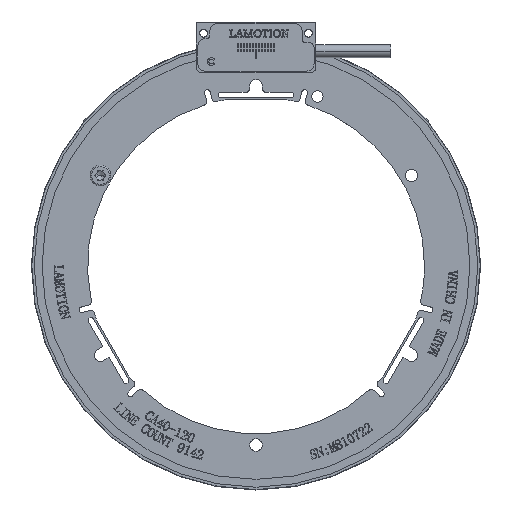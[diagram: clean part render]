
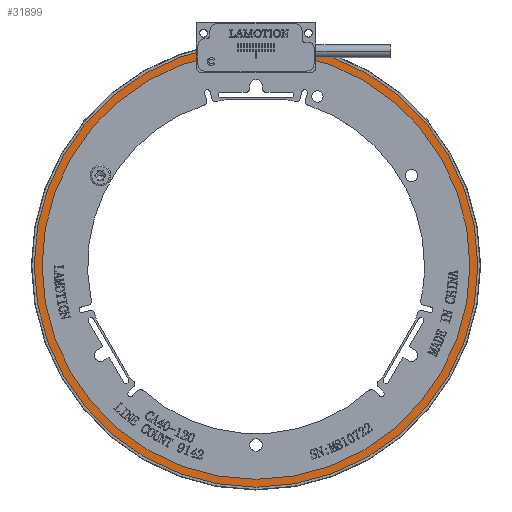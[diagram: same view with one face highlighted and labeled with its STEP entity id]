
A CAD part, top view. The second image highlights one B-rep face of the part: STEP entity #31899.
In plain terms, the highlighted planar face has unit normal (0, 0, 1).
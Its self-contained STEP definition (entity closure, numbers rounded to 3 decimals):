
#96 = FACE_BOUND ( 'NONE', #56713, .T. ) ;
#442 = ORIENTED_EDGE ( 'NONE', *, *, #45489, .F. ) ;
#444 = VERTEX_POINT ( 'NONE', #2449 ) ;
#1175 = VERTEX_POINT ( 'NONE', #9359 ) ;
#1659 = VERTEX_POINT ( 'NONE', #19821 ) ;
#2051 = VERTEX_POINT ( 'NONE', #13333 ) ;
#2449 = CARTESIAN_POINT ( 'NONE',  ( -0.2, 57.15, -0.001 ) ) ;
#3942 = ORIENTED_EDGE ( 'NONE', *, *, #30025, .F. ) ;
#4132 = EDGE_CURVE ( 'NONE', #444, #48753, #29621, .T. ) ;
#6152 = DIRECTION ( 'NONE',  ( 0., 0., 1. ) ) ;
#6488 = CARTESIAN_POINT ( 'NONE',  ( 0., 0., -0.001 ) ) ;
#6763 = LINE ( 'NONE', #23837, #26822 ) ;
#7076 = EDGE_CURVE ( 'NONE', #444, #1175, #56964, .T. ) ;
#8105 = CARTESIAN_POINT ( 'NONE',  ( -59.25, 0., -0.001 ) ) ;
#9359 = CARTESIAN_POINT ( 'NONE',  ( -57.15, 0., -0.001 ) ) ;
#9738 = CARTESIAN_POINT ( 'NONE',  ( 0., 0., -0.001 ) ) ;
#10428 = FACE_OUTER_BOUND ( 'NONE', #30420, .T. ) ;
#11179 = ORIENTED_EDGE ( 'NONE', *, *, #70150, .T. ) ;
#13333 = CARTESIAN_POINT ( 'NONE',  ( 0.2, 57.15, -0.001 ) ) ;
#13607 = CARTESIAN_POINT ( 'NONE',  ( -0.2, 55.05, -0.001 ) ) ;
#15826 = VECTOR ( 'NONE', #61177, 1000. ) ;
#16892 = CARTESIAN_POINT ( 'NONE',  ( -0.2, 55.05, -0.001 ) ) ;
#18390 = CIRCLE ( 'NONE', #25142, 59.25 ) ;
#19821 = CARTESIAN_POINT ( 'NONE',  ( 59.25, 0., -0.001 ) ) ;
#20041 = EDGE_CURVE ( 'NONE', #48753, #33526, #39164, .T. ) ;
#22108 = VECTOR ( 'NONE', #62681, 1000. ) ;
#22671 = DIRECTION ( 'NONE',  ( 1., 0., 0. ) ) ;
#23101 = ORIENTED_EDGE ( 'NONE', *, *, #59571, .T. ) ;
#23290 = ORIENTED_EDGE ( 'NONE', *, *, #49487, .T. ) ;
#23837 = CARTESIAN_POINT ( 'NONE',  ( 0.2, 55.05, -0.001 ) ) ;
#25142 = AXIS2_PLACEMENT_3D ( 'NONE', #65349, #38676, #22671 ) ;
#25583 = VERTEX_POINT ( 'NONE', #44332 ) ;
#26111 = AXIS2_PLACEMENT_3D ( 'NONE', #34084, #28786, #66808 ) ;
#26436 = PLANE ( 'NONE',  #29655 ) ;
#26822 = VECTOR ( 'NONE', #68232, 1000. ) ;
#27471 = DIRECTION ( 'NONE',  ( 1., 0., 0. ) ) ;
#28542 = CARTESIAN_POINT ( 'NONE',  ( 0., 0., -0.001 ) ) ;
#28786 = DIRECTION ( 'NONE',  ( 0., 0., 1. ) ) ;
#29621 = LINE ( 'NONE', #13607, #22108 ) ;
#29655 = AXIS2_PLACEMENT_3D ( 'NONE', #36758, #69808, #38166 ) ;
#30025 = EDGE_CURVE ( 'NONE', #1175, #25583, #32010, .T. ) ;
#30420 = EDGE_LOOP ( 'NONE', ( #23290, #23101 ) ) ;
#31899 = ADVANCED_FACE ( 'NONE', ( #96, #10428 ), #26436, .T. ) ;
#32010 = CIRCLE ( 'NONE', #34246, 57.15 ) ;
#33526 = VERTEX_POINT ( 'NONE', #64026 ) ;
#34084 = CARTESIAN_POINT ( 'NONE',  ( 0., 0., -0.001 ) ) ;
#34246 = AXIS2_PLACEMENT_3D ( 'NONE', #28542, #50257, #27471 ) ;
#36758 = CARTESIAN_POINT ( 'NONE',  ( 0., 0., -0.001 ) ) ;
#37774 = CIRCLE ( 'NONE', #62718, 57.15 ) ;
#38166 = DIRECTION ( 'NONE',  ( 1., 0., 0. ) ) ;
#38676 = DIRECTION ( 'NONE',  ( 0., 0., 1. ) ) ;
#39164 = LINE ( 'NONE', #39503, #15826 ) ;
#39352 = ORIENTED_EDGE ( 'NONE', *, *, #7076, .F. ) ;
#39503 = CARTESIAN_POINT ( 'NONE',  ( 0.2, 55.05, -0.001 ) ) ;
#43335 = AXIS2_PLACEMENT_3D ( 'NONE', #9738, #64492, #48866 ) ;
#44332 = CARTESIAN_POINT ( 'NONE',  ( 57.15, 0., -0.001 ) ) ;
#45489 = EDGE_CURVE ( 'NONE', #25583, #2051, #37774, .T. ) ;
#48753 = VERTEX_POINT ( 'NONE', #16892 ) ;
#48866 = DIRECTION ( 'NONE',  ( 1., 0., 0. ) ) ;
#49487 = EDGE_CURVE ( 'NONE', #1659, #50617, #18390, .T. ) ;
#50257 = DIRECTION ( 'NONE',  ( 0., 0., 1. ) ) ;
#50617 = VERTEX_POINT ( 'NONE', #8105 ) ;
#50894 = ORIENTED_EDGE ( 'NONE', *, *, #4132, .T. ) ;
#51559 = ORIENTED_EDGE ( 'NONE', *, *, #20041, .T. ) ;
#56713 = EDGE_LOOP ( 'NONE', ( #39352, #50894, #51559, #11179, #442, #3942 ) ) ;
#56964 = CIRCLE ( 'NONE', #43335, 57.15 ) ;
#59571 = EDGE_CURVE ( 'NONE', #50617, #1659, #70381, .T. ) ;
#60178 = DIRECTION ( 'NONE',  ( 1., 0., 0. ) ) ;
#61177 = DIRECTION ( 'NONE',  ( 1., 0., 0. ) ) ;
#62681 = DIRECTION ( 'NONE',  ( 0., -1., 0. ) ) ;
#62718 = AXIS2_PLACEMENT_3D ( 'NONE', #6488, #6152, #60178 ) ;
#64026 = CARTESIAN_POINT ( 'NONE',  ( 0.2, 55.05, -0.001 ) ) ;
#64492 = DIRECTION ( 'NONE',  ( 0., 0., 1. ) ) ;
#65349 = CARTESIAN_POINT ( 'NONE',  ( 0., 0., -0.001 ) ) ;
#66808 = DIRECTION ( 'NONE',  ( 1., 0., 0. ) ) ;
#68232 = DIRECTION ( 'NONE',  ( 0., 1., 0. ) ) ;
#69808 = DIRECTION ( 'NONE',  ( 0., 0., 1. ) ) ;
#70150 = EDGE_CURVE ( 'NONE', #33526, #2051, #6763, .T. ) ;
#70381 = CIRCLE ( 'NONE', #26111, 59.25 ) ;
